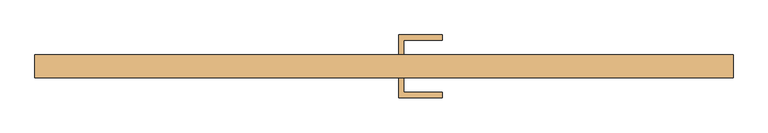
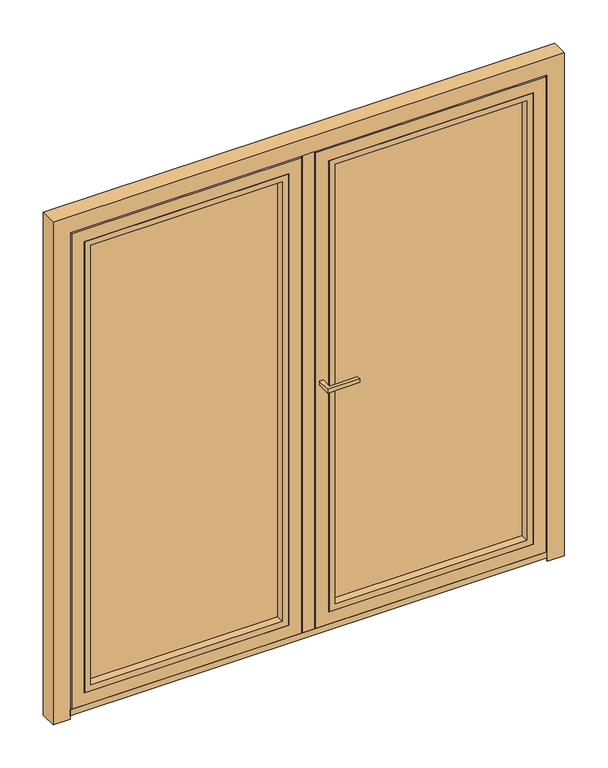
"""IFC4 building model written with IfcOpenShell, lengths in millimetres: door geometry, Reynaers_CS 77_Door_Miter_Outward Opening_Double Vent : Reynaers_CS 77_Door_Inward Opening_Double Vent."""

from ifc_helpers import new_model, si_unit, frame, origin, place, context, project, spatial, polyline, outline, extrude, faceted_brep, source, transform, mapped, element, save


def door_0d24d2ff(model_context):
    return source(origin(), model_context, "Body", "SolidModel", [
        extrude(outline(polyline([(42.5, 80.0), (42.5, 137.5), (170.0, 137.5), (170.0, 122.5), (57.5, 122.5), (57.5, 80.0), (42.5, 80.0)])), frame((0.0, 0.0, 1062.5), z_axis=(0.0, 0.0, 1.0), x_axis=(1.0, 0.0, 0.0)), (0.0, 0.0, 1.0), 15.0),
        extrude(outline(polyline([(42.5, 12.0), (57.5, 12.0), (57.5, -30.5), (170.0, -30.5), (170.0, -45.5), (42.5, -45.5), (42.5, 12.0)])), frame((0.0, 0.0, 1062.5), z_axis=(0.0, 0.0, 1.0), x_axis=(1.0, 0.0, 0.0)), (0.0, 0.0, 1.0), 15.0),
        extrude(outline(polyline([(92.0, 81.0), (92.0, 894.0), (1994.0, 894.0), (1994.0, 81.0), (92.0, 81.0)]), holes=[polyline([(1970.0, 105.0), (1970.0, 870.0), (116.0, 870.0), (116.0, 105.0), (1970.0, 105.0)])]), frame((0.0, 12.0, 0.0), z_axis=(0.0, 1.0, 0.0), x_axis=(0.0, 0.0, 1.0)), (0.0, 0.0, 1.0), 33.0),
        extrude(outline(polyline([(1994.0, -894.0), (92.0, -894.0), (92.0, -81.0), (1994.0, -81.0), (1994.0, -894.0)]), holes=[polyline([(1970.0, -105.0), (116.0, -105.0), (116.0, -870.0), (1970.0, -870.0), (1970.0, -105.0)])]), frame((0.0, 12.0, 0.0), z_axis=(0.0, 1.0, 0.0), x_axis=(0.0, 0.0, 1.0)), (0.0, 0.0, 1.0), 33.0),
        extrude(outline(polyline([(889.0, 72.0), (889.0, 45.0), (86.0, 45.0), (86.0, 72.0), (889.0, 72.0)])), frame((0.0, 0.0, 97.0), z_axis=(0.0, 0.0, 1.0), x_axis=(1.0, 0.0, 0.0)), (0.0, 0.0, 1.0), 1892.0),
        extrude(outline(polyline([(-86.0, 45.0), (-889.0, 45.0), (-889.0, 72.0), (-86.0, 72.0), (-86.0, 45.0)])), frame((0.0, 0.0, 97.0), z_axis=(0.0, 0.0, 1.0), x_axis=(1.0, 0.0, 0.0)), (0.0, 0.0, 1.0), 1892.0),
        faceted_brep([(-18.0, 76.2, 2057.0), (-18.0, 20.8, 2057.0), (-18.0, 20.8, 29.0), (-18.0, 76.2, 29.0), (-957.0, 20.8, 2057.0), (-957.0, 20.8, 29.0), (-29.0, 20.8, 2046.0), (-29.0, 20.8, 40.0), (-946.0, 20.8, 40.0), (-946.0, 20.8, 2046.0), (-957.0, 76.2, 29.0), (-972.0, 76.2, 2072.0), (-972.0, 76.2, 14.0), (-3.0, 76.2, 14.0), (-3.0, 76.2, 2072.0), (-957.0, 76.2, 2057.0), (-3.0, 80.0, 2072.0), (-3.0, 80.0, 14.0), (-972.0, 80.0, 14.0), (-972.0, 80.0, 2072.0), (-870.0, 80.0, 1970.0), (-870.0, 80.0, 116.0), (-105.0, 80.0, 116.0), (-105.0, 80.0, 1970.0), (-105.0, 72.0, 1970.0), (-105.0, 72.0, 116.0), (-870.0, 72.0, 116.0), (-895.0, 72.0, 1995.0), (-895.0, 72.0, 91.0), (-80.0, 72.0, 91.0), (-80.0, 72.0, 1995.0), (-870.0, 72.0, 1970.0), (-80.0, 12.0, 1995.0), (-80.0, 12.0, 91.0), (-895.0, 12.0, 91.0), (-946.0, 12.0, 2046.0), (-946.0, 12.0, 40.0), (-29.0, 12.0, 40.0), (-29.0, 12.0, 2046.0), (-895.0, 12.0, 1995.0)], [[[0, 1, 2, 3]], [[4, 5, 2, 1], [6, 7, 8, 9]], [[3, 2, 5, 10]], [[11, 12, 13, 14], [0, 3, 10, 15]], [[16, 14, 13, 17]], [[17, 13, 12, 18]], [[16, 17, 18, 19], [20, 21, 22, 23]], [[24, 23, 22, 25]], [[25, 22, 21, 26]], [[27, 28, 29, 30], [24, 25, 26, 31]], [[32, 30, 29, 33]], [[33, 29, 28, 34]], [[35, 36, 37, 38], [32, 33, 34, 39]], [[6, 38, 37, 7]], [[7, 37, 36, 8]], [[10, 5, 4, 15]], [[18, 12, 11, 19]], [[26, 21, 20, 31]], [[34, 28, 27, 39]], [[8, 36, 35, 9]], [[15, 4, 1, 0]], [[19, 11, 14, 16]], [[31, 20, 23, 24]], [[39, 27, 30, 32]], [[9, 35, 38, 6]]]),
        extrude(outline(polyline([(23.0, 12.0), (-23.0, 12.0), (-23.0, 15.8), (-14.2, 15.8), (-14.2, 71.2), (8.0, 71.2), (8.0, 15.8), (23.0, 15.8), (23.0, 12.0)])), frame((0.0, 0.0, 40.0), z_axis=(0.0, 0.0, 1.0), x_axis=(1.0, 0.0, 0.0)), (0.0, 0.0, 1.0), 2012.0),
        faceted_brep([(946.0, 20.8, 40.0), (946.0, 12.0, 40.0), (29.0, 12.0, 40.0), (29.0, 20.8, 40.0), (29.0, 12.0, 2046.0), (29.0, 20.8, 2046.0), (946.0, 12.0, 2046.0), (80.0, 12.0, 1995.0), (895.0, 12.0, 1995.0), (895.0, 12.0, 91.0), (80.0, 12.0, 91.0), (18.0, 20.8, 29.0), (957.0, 20.8, 29.0), (957.0, 20.8, 2057.0), (18.0, 20.8, 2057.0), (946.0, 20.8, 2046.0), (957.0, 76.2, 29.0), (18.0, 76.2, 29.0), (18.0, 76.2, 2057.0), (3.0, 76.2, 14.0), (972.0, 76.2, 14.0), (972.0, 76.2, 2072.0), (3.0, 76.2, 2072.0), (957.0, 76.2, 2057.0), (972.0, 80.0, 14.0), (3.0, 80.0, 14.0), (3.0, 80.0, 2072.0), (972.0, 80.0, 2072.0), (105.0, 80.0, 116.0), (870.0, 80.0, 116.0), (870.0, 80.0, 1970.0), (105.0, 80.0, 1970.0), (870.0, 72.0, 116.0), (105.0, 72.0, 116.0), (105.0, 72.0, 1970.0), (80.0, 72.0, 91.0), (895.0, 72.0, 91.0), (895.0, 72.0, 1995.0), (80.0, 72.0, 1995.0), (870.0, 72.0, 1970.0)], [[[0, 1, 2, 3]], [[3, 2, 4, 5]], [[2, 1, 6, 4], [7, 8, 9, 10]], [[11, 12, 13, 14], [5, 15, 0, 3]], [[16, 12, 11, 17]], [[17, 11, 14, 18]], [[19, 20, 21, 22], [18, 23, 16, 17]], [[24, 20, 19, 25]], [[25, 19, 22, 26]], [[26, 27, 24, 25], [28, 29, 30, 31]], [[32, 29, 28, 33]], [[33, 28, 31, 34]], [[35, 36, 37, 38], [34, 39, 32, 33]], [[9, 36, 35, 10]], [[10, 35, 38, 7]], [[15, 6, 1, 0]], [[23, 13, 12, 16]], [[27, 21, 20, 24]], [[39, 30, 29, 32]], [[8, 37, 36, 9]], [[5, 4, 6, 15]], [[18, 14, 13, 23]], [[26, 22, 21, 27]], [[34, 31, 30, 39]], [[7, 38, 37, 8]]]),
        faceted_brep([(-978.0, 71.2, 0.0), (-967.0, 71.2, 0.0), (-967.0, 15.8, 0.0), (-952.0, 15.8, 0.0), (-952.0, 12.0, 0.0), (-1020.0, 12.0, 0.0), (-1020.0, 80.0, 0.0), (-978.0, 80.0, 0.0), (-978.0, 71.2, 2078.0), (978.0, 71.2, 2078.0), (978.0, 71.2, 0.0), (967.0, 71.2, 0.0), (967.0, 71.2, 2067.0), (-967.0, 71.2, 2067.0), (-967.0, 15.8, 2067.0), (967.0, 15.8, 2067.0), (967.0, 15.8, 0.0), (952.0, 15.8, 0.0), (952.0, 15.8, 2052.0), (-952.0, 15.8, 2052.0), (-952.0, 12.0, 2052.0), (952.0, 12.0, 2052.0), (952.0, 12.0, 0.0), (1020.0, 12.0, 0.0), (1020.0, 12.0, 2120.0), (-1020.0, 12.0, 2120.0), (-1020.0, 80.0, 2120.0), (1020.0, 80.0, 2120.0), (1020.0, 80.0, 0.0), (978.0, 80.0, 0.0), (978.0, 80.0, 2078.0), (-978.0, 80.0, 2078.0)], [[[0, 1, 2, 3, 4, 5, 6, 7]], [[1, 0, 8, 9, 10, 11, 12, 13]], [[2, 1, 13, 14]], [[3, 2, 14, 15, 16, 17, 18, 19]], [[4, 3, 19, 20]], [[5, 4, 20, 21, 22, 23, 24, 25]], [[6, 5, 25, 26]], [[7, 6, 26, 27, 28, 29, 30, 31]], [[0, 7, 31, 8]], [[10, 29, 28, 23, 22, 17, 16, 11]], [[9, 30, 29, 10]], [[27, 24, 23, 28]], [[21, 18, 17, 22]], [[15, 12, 11, 16]], [[14, 13, 12, 15]], [[20, 19, 18, 21]], [[26, 25, 24, 27]], [[8, 31, 30, 9]]]),
        extrude(outline(polyline([(952.0, 15.8), (952.0, 12.0), (-952.0, 12.0), (-952.0, 15.8), (952.0, 15.8)])), frame((0.0, 0.0, 14.0), z_axis=(0.0, 0.0, 1.0), x_axis=(1.0, 0.0, 0.0)), (0.0, 0.0, 1.0), 26.0),
        extrude(outline(polyline([(952.0, 44.8), (952.0, 34.8), (-952.0, 34.8), (-952.0, 44.8), (952.0, 44.8)])), frame((0.0, 0.0, 1.0), z_axis=(0.0, 0.0, 1.0), x_axis=(1.0, 0.0, 0.0)), (0.0, 0.0, 1.0), 28.0),
    ])


if __name__ == "__main__":
    model = new_model("IFC4")
    model_context = context("Model", 3, world=origin())
    ifc_project = project(units=[si_unit("LENGTHUNIT", "METRE", prefix="MILLI")], contexts=[model_context])
    site = spatial("IfcSite", under=ifc_project)
    building = spatial("IfcBuilding", under=site)
    placement = place(None, origin())
    door_shape = door_0d24d2ff(model_context)
    element("IfcDoor", 1, ObjectType="Reynaers_CS 77_Door_Miter_Outward Opening_Double Vent : Reynaers_CS 77_Door_Inward Opening_Double Vent", at=placement, inside=building, context=model_context, shape_type="MappedRepresentation", body=[
        mapped(door_shape, transform((0.0, 0.0, 0.0), x_axis=(1.0, 0.0, 0.0), y_axis=(0.0, 1.0, 0.0), z_axis=(0.0, 0.0, 1.0))),
    ])
    save(model, "model.ifc")
